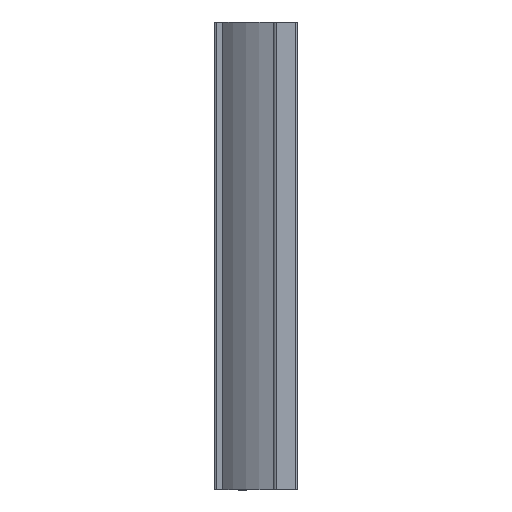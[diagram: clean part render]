
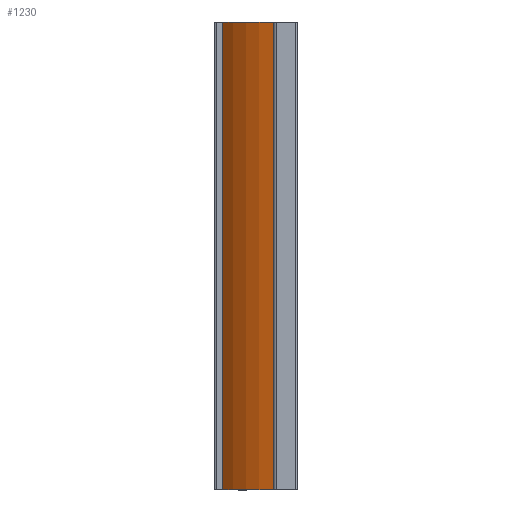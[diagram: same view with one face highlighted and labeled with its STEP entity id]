
A CAD part, left-side view. The second image highlights one B-rep face of the part: STEP entity #1230.
In plain terms, the highlighted cylindrical face has radius 31 mm (diameter 62 mm), a partial arc.
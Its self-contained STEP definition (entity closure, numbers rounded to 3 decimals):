
#177 = DIRECTION ( 'NONE',  ( 0., 0., 1. ) ) ;
#303 = FACE_OUTER_BOUND ( 'NONE', #630, .T. ) ;
#340 = CIRCLE ( 'NONE', #1451, 31. ) ;
#390 = VECTOR ( 'NONE', #1135, 1000. ) ;
#489 = VERTEX_POINT ( 'NONE', #1087 ) ;
#492 = VERTEX_POINT ( 'NONE', #2960 ) ;
#630 = EDGE_LOOP ( 'NONE', ( #3597, #3246, #3101, #2139 ) ) ;
#706 = CARTESIAN_POINT ( 'NONE',  ( -41.5, -1.85, -135. ) ) ;
#733 = CARTESIAN_POINT ( 'NONE',  ( -41.5, -1.85, -135. ) ) ;
#743 = DIRECTION ( 'NONE',  ( 0., 0., 1. ) ) ;
#887 = EDGE_CURVE ( 'NONE', #3398, #489, #1197, .T. ) ;
#1087 = CARTESIAN_POINT ( 'NONE',  ( -41.5, -1.85, 0. ) ) ;
#1113 = VECTOR ( 'NONE', #743, 1000. ) ;
#1135 = DIRECTION ( 'NONE',  ( 0., 0., 1. ) ) ;
#1197 = LINE ( 'NONE', #733, #1113 ) ;
#1230 = ADVANCED_FACE ( 'NONE', ( #303 ), #3015, .T. ) ;
#1451 = AXIS2_PLACEMENT_3D ( 'NONE', #1480, #3427, #1773 ) ;
#1480 = CARTESIAN_POINT ( 'NONE',  ( -21.293, -25.359, 0. ) ) ;
#1707 = CARTESIAN_POINT ( 'NONE',  ( -51., -16.5, 0. ) ) ;
#1751 = AXIS2_PLACEMENT_3D ( 'NONE', #1873, #177, #2148 ) ;
#1773 = DIRECTION ( 'NONE',  ( -1., 0., 0. ) ) ;
#1824 = EDGE_CURVE ( 'NONE', #492, #2614, #1890, .T. ) ;
#1873 = CARTESIAN_POINT ( 'NONE',  ( -21.293, -25.359, -135. ) ) ;
#1890 = LINE ( 'NONE', #2055, #390 ) ;
#2055 = CARTESIAN_POINT ( 'NONE',  ( -51., -16.5, -135. ) ) ;
#2087 = EDGE_CURVE ( 'NONE', #489, #2614, #340, .T. ) ;
#2139 = ORIENTED_EDGE ( 'NONE', *, *, #1824, .T. ) ;
#2148 = DIRECTION ( 'NONE',  ( -1., 0., 0. ) ) ;
#2505 = AXIS2_PLACEMENT_3D ( 'NONE', #3569, #3615, #3495 ) ;
#2614 = VERTEX_POINT ( 'NONE', #1707 ) ;
#2837 = CIRCLE ( 'NONE', #1751, 31. ) ;
#2960 = CARTESIAN_POINT ( 'NONE',  ( -51., -16.5, -135. ) ) ;
#3015 = CYLINDRICAL_SURFACE ( 'NONE', #2505, 31. ) ;
#3101 = ORIENTED_EDGE ( 'NONE', *, *, #3485, .T. ) ;
#3246 = ORIENTED_EDGE ( 'NONE', *, *, #887, .F. ) ;
#3398 = VERTEX_POINT ( 'NONE', #706 ) ;
#3427 = DIRECTION ( 'NONE',  ( 0., 0., 1. ) ) ;
#3485 = EDGE_CURVE ( 'NONE', #3398, #492, #2837, .T. ) ;
#3495 = DIRECTION ( 'NONE',  ( 1., 0., 0. ) ) ;
#3569 = CARTESIAN_POINT ( 'NONE',  ( -21.293, -25.359, -135. ) ) ;
#3597 = ORIENTED_EDGE ( 'NONE', *, *, #2087, .F. ) ;
#3615 = DIRECTION ( 'NONE',  ( 0., 0., 1. ) ) ;
